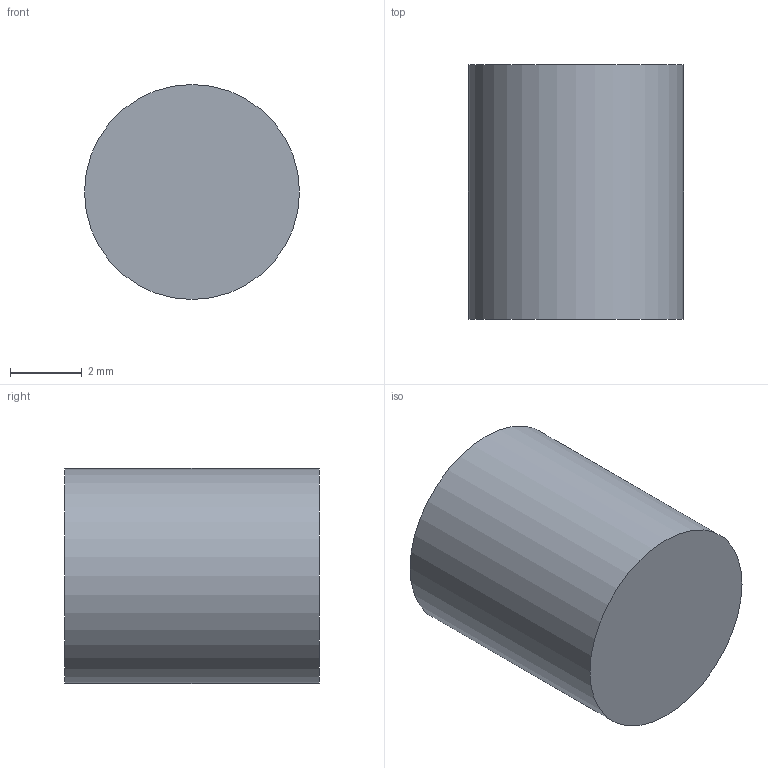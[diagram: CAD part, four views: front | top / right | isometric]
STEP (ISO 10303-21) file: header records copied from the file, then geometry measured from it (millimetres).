
FILE_DESCRIPTION(('Open CASCADE Model'),'2;1');
FILE_NAME('Open CASCADE Shape Model','2026-10-16T03:24:50',('Author'),( 'Open CASCADE'),'Open CASCADE STEP processor 7.9','Open CASCADE 7.9' ,'Unknown');
FILE_SCHEMA(('AUTOMOTIVE_DESIGN { 1 0 10303 214 1 1 1 1 }'));
Length unit declared in the file: millimetre
Products named in the file (1): Open CASCADE STEP translator 7.9 7
Bounding box: 6 x 7.1 x 6 mm (x, y, z)
Volume: 200.7 mm3; surface area: 190.4 mm2
Topology: 1 solids, 1 shells, 3 faces, 3 edges, 2 vertices
Faces by surface type: plane 2, cylinder 1
Full cylindrical faces by diameter (mm): 6 x1
Entity records: 108 total; most frequent: DIRECTION 19, CARTESIAN_POINT 15, AXIS2_PLACEMENT_3D 6, ORIENTED_EDGE 6, PCURVE 6, DEFINITIONAL_REPRESENTATION 6, LINE 5, VECTOR 5
